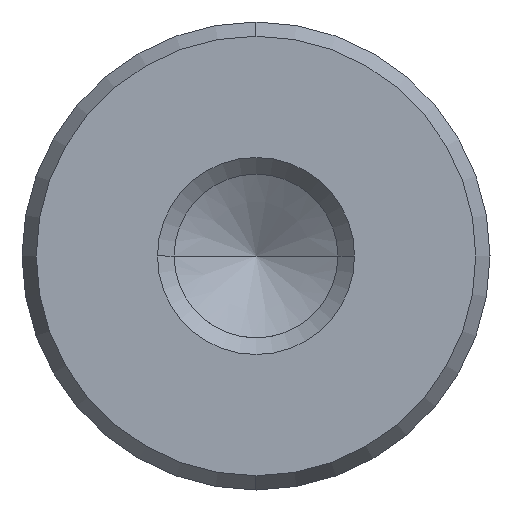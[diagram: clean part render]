
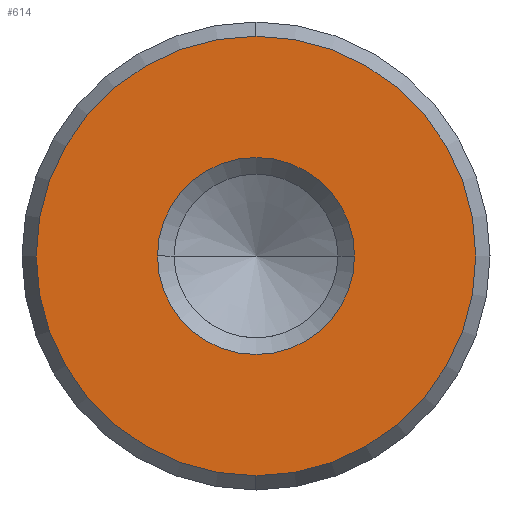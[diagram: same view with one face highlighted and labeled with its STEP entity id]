
A CAD part, left-side view. The second image highlights one B-rep face of the part: STEP entity #614.
In plain terms, the highlighted planar face has unit normal (-1, 0, 0).
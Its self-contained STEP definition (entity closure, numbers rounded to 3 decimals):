
#528=CARTESIAN_POINT('Vertex',(0.,0.,-8.923)) ;
#531=CARTESIAN_POINT('Axis2P3D Location',(0.,0.,0.)) ;
#535=CARTESIAN_POINT('Vertex',(0.,8.923,0.)) ;
#538=CARTESIAN_POINT('Axis2P3D Location',(0.,0.,0.)) ;
#542=CARTESIAN_POINT('Vertex',(0.,0.,8.923)) ;
#564=CARTESIAN_POINT('Axis2P3D Location',(0.,0.,0.)) ;
#568=CARTESIAN_POINT('Vertex',(0.,-8.923,0.)) ;
#571=CARTESIAN_POINT('Axis2P3D Location',(0.,0.,0.)) ;
#585=CARTESIAN_POINT('Axis2P3D Location',(0.,0.,0.)) ;
#596=CARTESIAN_POINT('Axis2P3D Location',(0.,0.,0.)) ;
#600=CARTESIAN_POINT('Vertex',(0.,4.,0.)) ;
#602=CARTESIAN_POINT('Vertex',(0.,-4.,0.)) ;
#605=CARTESIAN_POINT('Axis2P3D Location',(0.,0.,0.)) ;
#532=DIRECTION('Axis2P3D Direction',(1.,0.,-0.)) ;
#539=DIRECTION('Axis2P3D Direction',(1.,0.,-0.)) ;
#565=DIRECTION('Axis2P3D Direction',(1.,0.,-0.)) ;
#572=DIRECTION('Axis2P3D Direction',(1.,0.,-0.)) ;
#586=DIRECTION('Axis2P3D Direction',(1.,0.,-0.)) ;
#587=DIRECTION('Axis2P3D XDirection',(-0.,0.,-1.)) ;
#597=DIRECTION('Axis2P3D Direction',(1.,0.,-0.)) ;
#606=DIRECTION('Axis2P3D Direction',(1.,0.,-0.)) ;
#533=AXIS2_PLACEMENT_3D('Circle Axis2P3D',#531,#532,$) ;
#540=AXIS2_PLACEMENT_3D('Circle Axis2P3D',#538,#539,$) ;
#566=AXIS2_PLACEMENT_3D('Circle Axis2P3D',#564,#565,$) ;
#573=AXIS2_PLACEMENT_3D('Circle Axis2P3D',#571,#572,$) ;
#588=AXIS2_PLACEMENT_3D('Plane Axis2P3D',#585,#586,#587) ;
#598=AXIS2_PLACEMENT_3D('Circle Axis2P3D',#596,#597,$) ;
#607=AXIS2_PLACEMENT_3D('Circle Axis2P3D',#605,#606,$) ;
#591=ORIENTED_EDGE('',*,*,#537,.F.) ;
#592=ORIENTED_EDGE('',*,*,#575,.F.) ;
#593=ORIENTED_EDGE('',*,*,#570,.F.) ;
#594=ORIENTED_EDGE('',*,*,#544,.F.) ;
#611=ORIENTED_EDGE('',*,*,#604,.T.) ;
#612=ORIENTED_EDGE('',*,*,#609,.T.) ;
#613=FACE_BOUND('',#610,.T.) ;
#614=ADVANCED_FACE('720-19x200',(#595,#613),#589,.F.) ;
#534=CIRCLE('generated circle',#533,8.923) ;
#541=CIRCLE('generated circle',#540,8.923) ;
#567=CIRCLE('generated circle',#566,8.923) ;
#574=CIRCLE('generated circle',#573,8.923) ;
#599=CIRCLE('generated circle',#598,4.) ;
#608=CIRCLE('generated circle',#607,4.) ;
#537=EDGE_CURVE('',#529,#536,#534,.T.) ;
#544=EDGE_CURVE('',#536,#543,#541,.T.) ;
#570=EDGE_CURVE('',#543,#569,#567,.T.) ;
#575=EDGE_CURVE('',#569,#529,#574,.T.) ;
#604=EDGE_CURVE('',#601,#603,#599,.T.) ;
#609=EDGE_CURVE('',#603,#601,#608,.T.) ;
#590=EDGE_LOOP('',(#591,#592,#593,#594)) ;
#610=EDGE_LOOP('',(#611,#612)) ;
#595=FACE_OUTER_BOUND('',#590,.T.) ;
#589=PLANE('Plane',#588) ;
#529=VERTEX_POINT('',#528) ;
#536=VERTEX_POINT('',#535) ;
#543=VERTEX_POINT('',#542) ;
#569=VERTEX_POINT('',#568) ;
#601=VERTEX_POINT('',#600) ;
#603=VERTEX_POINT('',#602) ;
